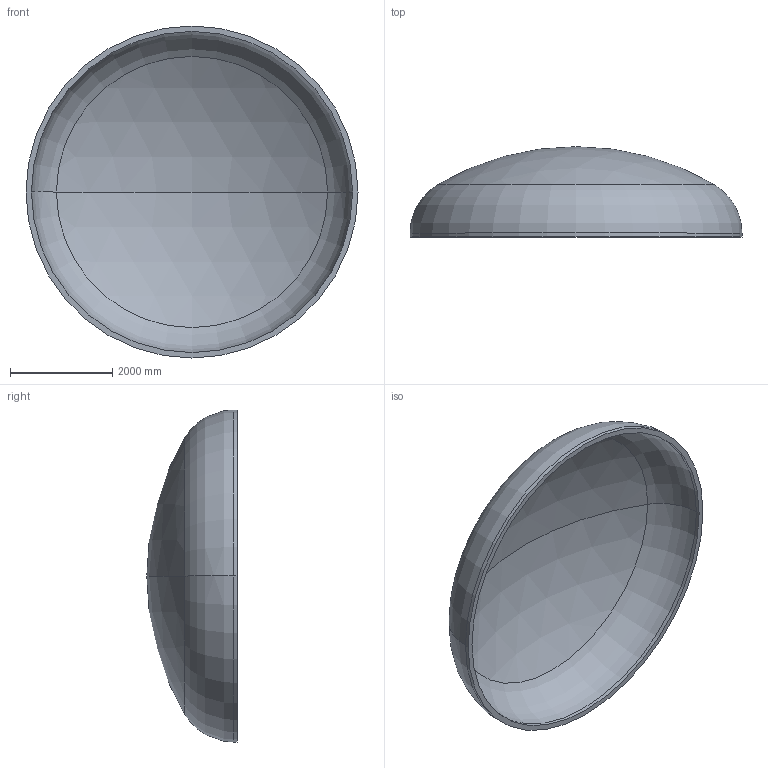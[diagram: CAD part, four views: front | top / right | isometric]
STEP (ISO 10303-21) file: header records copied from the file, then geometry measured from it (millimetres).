
FILE_DESCRIPTION (( 'STEP AP203' ), '1' );
FILE_NAME ('DIN 28013 Korbbogenform_-_Boden DIN 28013 - 6500 x 75 - I - s=106.step', '2016-07-04T10:44:10', ( '' ), ( '' ), 'SwSTEP 2.0', 'SolidWorks 2013', '' );
FILE_SCHEMA (( 'CONFIG_CONTROL_DESIGN' ));
Length unit declared in the file: millimetre
Products named in the file (1): DIN 28013 Korbbogenform_-_Boden DIN 28013 - 6500 x 75 - I - s=106
Bounding box: 6500 x 1769.45 x 6500 mm (x, y, z)
Volume: 4926591030.2 mm3; surface area: 95107303.5 mm2
Topology: 1 solids, 1 shells, 13 faces, 24 edges, 14 vertices
Faces by surface type: torus 4, cylinder 4, sphere 4, plane 1
Entity records: 407 total; most frequent: DIRECTION 72, CARTESIAN_POINT 52, ORIENTED_EDGE 48, AXIS2_PLACEMENT_3D 34, EDGE_CURVE 24, CIRCLE 20, EDGE_LOOP 14, VERTEX_POINT 14
